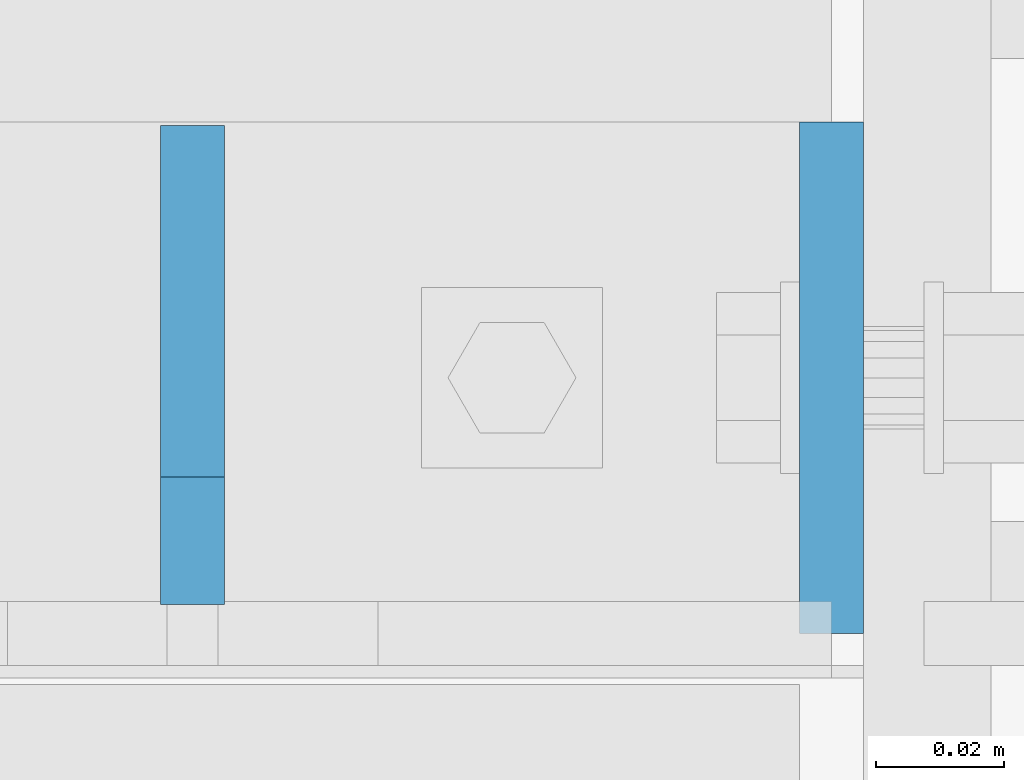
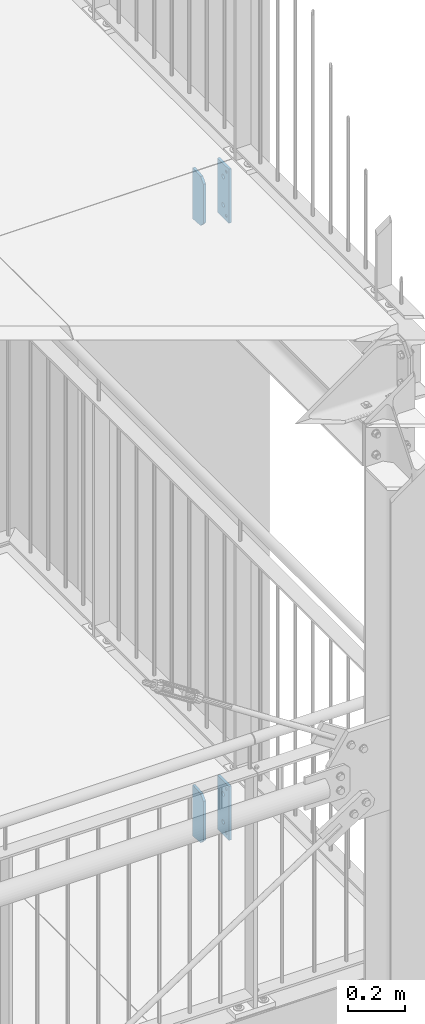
# One storey, part 203 of 821: 4 plates, 12 openings.
"""IFC2X3 building model written with IfcOpenShell, lengths in millimetres."""

from ifc_helpers import new_model, entity, si_unit, converted_unit, frame, frame_2d, origin, origin_with_axes, origin_2d_with_axis, place, context, project, spatial, polyline, circle, outline, extrude, material, layer, layer_set, element, save


model = new_model("IFC2X3")

# Units and contexts
model_context = context("Model", 3, precision=1e-09, world=origin_with_axes())
ifc_project = project(units=[si_unit("LENGTHUNIT", "METRE", prefix="MILLI"), si_unit("AREAUNIT", "SQUARE_METRE"), si_unit("VOLUMEUNIT", "CUBIC_METRE"), converted_unit("PLANEANGLEUNIT", "DEGREE", entity("IfcPlaneAngleMeasure", 0.01745329), si_unit("PLANEANGLEUNIT", "RADIAN"), dimensions=[0, 0, 0, 0, 0, 0, 0])], contexts=[model_context])

# Site, building, storey
site_placement = place(None, origin_with_axes())
site = spatial("IfcSite", under=ifc_project, at=site_placement, Name="Cnopf'sche Kinderklinik", CompositionType="ELEMENT")
building_placement = place(site_placement, origin_with_axes())
building = spatial("IfcBuilding", under=site, at=building_placement, Name="Struktur 1", CompositionType="ELEMENT")
storey_placement = place(building_placement, origin_with_axes())
storey = spatial("IfcBuildingStorey", under=building, at=storey_placement, Name="Default Storey", CompositionType="ELEMENT", Elevation=0.0)

# Plate, openings
ifc_material = material(Name="S235JR")
ifc_layer = layer(ifc_material, 10.0)
ifc_layer_set = layer_set([ifc_layer], Name="S235JR")
plate_1_placement = place(None, frame((8971.713402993, 5741.736971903, 13891.5000001), z_axis=(-1.0, 0.0, 0.0), x_axis=(0.0, 1.0, 0.0)))
plate_1 = element("IfcPlate", 1, at=plate_1_placement, inside=storey, material=ifc_layer_set, Name="Endplate", ObjectType="Endplate", context=model_context, shape_type="SweptSolid", body=[
    extrude(outline(polyline([(0.0, 0.0), (80.0, 0.0), (80.0, 230.0), (0.0, 230.0), (0.0, 0.0)])), origin_with_axes(), (0.0, 0.0, 1.0), 10.0),
])
opening_1_placement = place(plate_1_placement, frame((17.5, 209.0, -0.5), z_axis=(0.0, 0.0, 1.0), x_axis=(0.0, -1.0, 0.0)))
element("IfcOpeningElement", 2, at=opening_1_placement, cuts=plate_1, ObjectType="Opening", context=model_context, shape_type="SweptSolid", body=[
    extrude(circle(Radius=6.001, at=origin_2d_with_axis()), origin(), (0.0, 0.0, 1.0), 11.0),
])
opening_2_placement = place(plate_1_placement, frame((17.5, 21.0, -0.5), z_axis=(0.0, 0.0, 1.0), x_axis=(0.0, -1.0, 0.0)))
element("IfcOpeningElement", 3, at=opening_2_placement, cuts=plate_1, ObjectType="Opening", context=model_context, shape_type="SweptSolid", body=[
    extrude(circle(Radius=6.001, at=origin_2d_with_axis()), origin(), (0.0, 0.0, 1.0), 11.0),
])
opening_3_placement = place(plate_1_placement, frame((40.0, 115.0, -0.5), z_axis=(0.0, 0.0, 1.0), x_axis=(0.0, -1.0, 0.0)))
element("IfcOpeningElement", 4, at=opening_3_placement, cuts=plate_1, ObjectType="Opening", context=model_context, shape_type="SweptSolid", body=[
    extrude(circle(Radius=9.001, at=frame_2d((60.0, 0.0), x_axis=(1.0, 0.0))), origin(), (0.0, 0.0, 1.0), 11.0),
])
opening_4_placement = place(plate_1_placement, frame((40.0, 115.0, -0.5), z_axis=(0.0, 0.0, 1.0), x_axis=(0.0, -1.0, 0.0)))
element("IfcOpeningElement", 5, at=opening_4_placement, cuts=plate_1, ObjectType="Opening", context=model_context, shape_type="SweptSolid", body=[
    extrude(circle(Radius=9.001, at=frame_2d((-60.0, 0.0), x_axis=(1.0, 0.0))), origin(), (0.0, 0.0, 1.0), 11.0),
])

plate_2_placement = place(None, frame((8861.713402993, 5821.236971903, 13885.355265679), z_axis=(1.0, 0.0, 0.0), x_axis=(0.0, -0.996815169, -0.079746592)))
plate_2 = element("IfcPlate", 6, at=plate_2_placement, inside=storey, material=ifc_layer_set, Name="Stiffener#1", ObjectType="Stiffener#1", context=model_context, shape_type="SweptSolid", body=[
    extrude(outline(polyline([(0.0, 0.0), (75.239625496, 0.0), (91.644322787, 205.05517107), (17.361672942, 217.017159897), (0.0, 0.0)])), origin_with_axes(), (0.0, 0.0, 1.0), 10.0),
])
opening_5_placement = place(plate_2_placement, frame((0.0, 0.0, -0.01), z_axis=(0.0, 0.0, 1.0), x_axis=(1.0, 0.0, 0.0)))
element("IfcOpeningElement", 7, at=opening_5_placement, cuts=plate_2, ObjectType="Opening", context=model_context, shape_type="SweptSolid", body=[
    extrude(outline(polyline([(91.644322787, 205.05517107), (71.898703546, 208.23487558), (90.049390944, 185.118867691), (91.644322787, 205.05517107)])), origin(), (0.0, 0.0, 1.0), 10.02),
])
opening_6_placement = place(plate_2_placement, frame((0.0, 0.0, -0.01), z_axis=(0.0, 0.0, 1.0), x_axis=(1.0, 0.0, 0.0)))
element("IfcOpeningElement", 8, at=opening_6_placement, cuts=plate_2, ObjectType="Opening", context=model_context, shape_type="SweptSolid", body=[
    extrude(outline(polyline([(75.239625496, 0.0), (76.83455734, 19.936303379), (55.239625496, 0.0), (75.239625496, 0.0)])), origin(), (0.0, 0.0, 1.0), 10.02),
])

plate_3_placement = place(None, frame((8971.713402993, 5741.736971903, 16519.0000003), z_axis=(-1.0, 0.0, 0.0), x_axis=(0.0, 1.0, 0.0)))
plate_3 = element("IfcPlate", 9, at=plate_3_placement, inside=storey, material=ifc_layer_set, Name="Endplate", ObjectType="Endplate", context=model_context, shape_type="SweptSolid", body=[
    extrude(outline(polyline([(0.0, 0.0), (80.0, 0.0), (80.0, 230.0), (0.0, 230.0), (0.0, 0.0)])), origin_with_axes(), (0.0, 0.0, 1.0), 10.0),
])
opening_7_placement = place(plate_3_placement, frame((17.5, 209.0, -0.5), z_axis=(0.0, 0.0, 1.0), x_axis=(0.0, -1.0, 0.0)))
element("IfcOpeningElement", 10, at=opening_7_placement, cuts=plate_3, ObjectType="Opening", context=model_context, shape_type="SweptSolid", body=[
    extrude(circle(Radius=6.001, at=origin_2d_with_axis()), origin(), (0.0, 0.0, 1.0), 11.0),
])
opening_8_placement = place(plate_3_placement, frame((17.5, 21.0, -0.5), z_axis=(0.0, 0.0, 1.0), x_axis=(0.0, -1.0, 0.0)))
element("IfcOpeningElement", 11, at=opening_8_placement, cuts=plate_3, ObjectType="Opening", context=model_context, shape_type="SweptSolid", body=[
    extrude(circle(Radius=6.001, at=origin_2d_with_axis()), origin(), (0.0, 0.0, 1.0), 11.0),
])
opening_9_placement = place(plate_3_placement, frame((40.0, 115.0, -0.5), z_axis=(0.0, 0.0, 1.0), x_axis=(0.0, -1.0, 0.0)))
element("IfcOpeningElement", 12, at=opening_9_placement, cuts=plate_3, ObjectType="Opening", context=model_context, shape_type="SweptSolid", body=[
    extrude(circle(Radius=9.001, at=frame_2d((60.0, 0.0), x_axis=(1.0, 0.0))), origin(), (0.0, 0.0, 1.0), 11.0),
])
opening_10_placement = place(plate_3_placement, frame((40.0, 115.0, -0.5), z_axis=(0.0, 0.0, 1.0), x_axis=(0.0, -1.0, 0.0)))
element("IfcOpeningElement", 13, at=opening_10_placement, cuts=plate_3, ObjectType="Opening", context=model_context, shape_type="SweptSolid", body=[
    extrude(circle(Radius=9.001, at=frame_2d((-60.0, 0.0), x_axis=(1.0, 0.0))), origin(), (0.0, 0.0, 1.0), 11.0),
])

plate_4_placement = place(None, frame((8861.713402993, 5821.236971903, 16512.855265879), z_axis=(1.0, 0.0, 0.0), x_axis=(0.0, -0.996815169, -0.079746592)))
plate_4 = element("IfcPlate", 14, at=plate_4_placement, inside=storey, material=ifc_layer_set, Name="Stiffener#1", ObjectType="Stiffener#1", context=model_context, shape_type="SweptSolid", body=[
    extrude(outline(polyline([(0.0, 0.0), (75.239625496, 0.0), (91.644322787, 205.05517107), (17.361672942, 217.017159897), (0.0, 0.0)])), origin_with_axes(), (0.0, 0.0, 1.0), 10.0),
])
opening_11_placement = place(plate_4_placement, frame((0.0, 0.0, -0.01), z_axis=(0.0, 0.0, 1.0), x_axis=(1.0, 0.0, 0.0)))
element("IfcOpeningElement", 15, at=opening_11_placement, cuts=plate_4, ObjectType="Opening", context=model_context, shape_type="SweptSolid", body=[
    extrude(outline(polyline([(91.644322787, 205.05517107), (71.898703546, 208.23487558), (90.049390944, 185.118867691), (91.644322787, 205.05517107)])), origin(), (0.0, 0.0, 1.0), 10.02),
])
opening_12_placement = place(plate_4_placement, frame((0.0, 0.0, -0.01), z_axis=(0.0, 0.0, 1.0), x_axis=(1.0, 0.0, 0.0)))
element("IfcOpeningElement", 16, at=opening_12_placement, cuts=plate_4, ObjectType="Opening", context=model_context, shape_type="SweptSolid", body=[
    extrude(outline(polyline([(75.239625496, 0.0), (76.83455734, 19.936303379), (55.239625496, 0.0), (75.239625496, 0.0)])), origin(), (0.0, 0.0, 1.0), 10.02),
])

save(model, "model.ifc")
